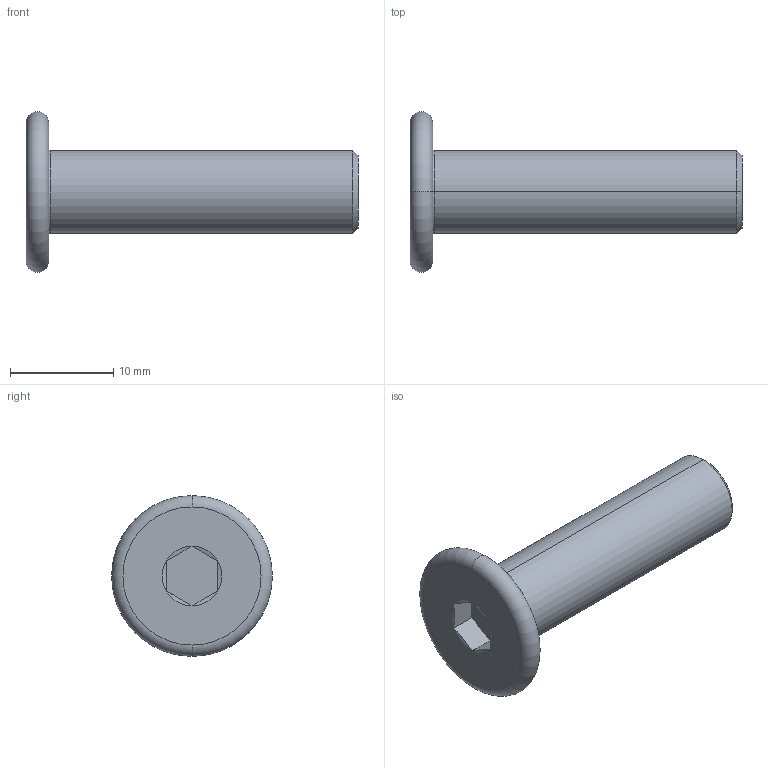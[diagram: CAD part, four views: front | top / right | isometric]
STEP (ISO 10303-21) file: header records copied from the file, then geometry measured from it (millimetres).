
FILE_DESCRIPTION (( 'STEP AP203' ), '1' );
FILE_NAME ('LGD-304M-M8x30.STEP', '2026-08-13T13:22:14', ( '' ), ( '' ), 'SwSTEP 2.0', 'SolidWorks 2020', '' );
FILE_SCHEMA (( 'CONFIG_CONTROL_DESIGN' ));
Length unit declared in the file: millimetre
Products named in the file (1): LGD-304M-M8x30
Bounding box: 32.2 x 15.6 x 15.6 mm (x, y, z)
Volume: 1846.7 mm3; surface area: 1229.1 mm2
Topology: 1 solids, 1 shells, 24 faces, 44 edges, 24 vertices
Faces by surface type: plane 10, cone 8, torus 4, cylinder 2
Entity records: 673 total; most frequent: CARTESIAN_POINT 119, DIRECTION 110, ORIENTED_EDGE 88, AXIS2_PLACEMENT_3D 47, EDGE_CURVE 44, EDGE_LOOP 26, VERTEX_POINT 24, ADVANCED_FACE 24
